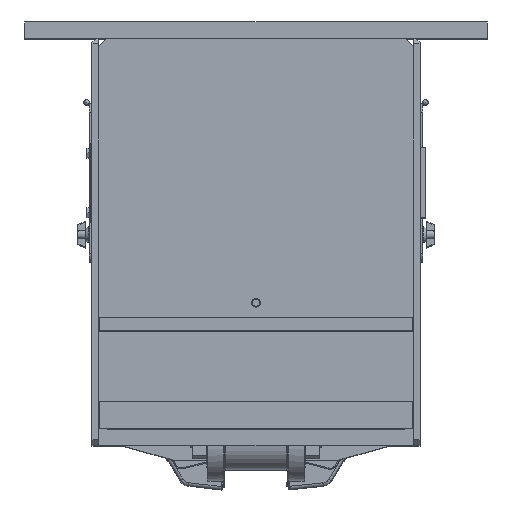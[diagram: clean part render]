
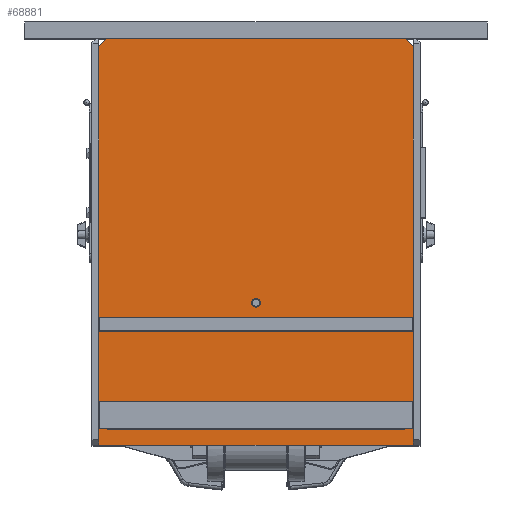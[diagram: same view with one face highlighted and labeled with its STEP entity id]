
A CAD part, top view. The second image highlights one B-rep face of the part: STEP entity #68881.
In plain terms, the highlighted planar face has unit normal (0, 0, 1).
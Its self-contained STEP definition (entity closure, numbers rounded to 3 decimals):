
#3217=FACE_BOUND('',#10303,.T.);
#3218=FACE_BOUND('',#10304,.T.);
#3219=FACE_BOUND('',#10305,.T.);
#6299=FACE_OUTER_BOUND('',#10302,.T.);
#10302=EDGE_LOOP('',(#52033,#52034,#52035,#52036,#52037,#52038));
#10303=EDGE_LOOP('',(#52039));
#10304=EDGE_LOOP('',(#52040,#52041,#52042,#52043));
#10305=EDGE_LOOP('',(#52044,#52045,#52046,#52047));
#13907=LINE('',#109629,#19379);
#13917=LINE('',#109649,#19389);
#13919=LINE('',#109655,#19391);
#13929=LINE('',#109675,#19401);
#15024=LINE('',#117021,#20496);
#15026=LINE('',#117024,#20498);
#15036=LINE('',#117043,#20508);
#15038=LINE('',#117046,#20510);
#15052=LINE('',#117076,#20524);
#15090=LINE('',#117152,#20562);
#15094=LINE('',#117159,#20566);
#15095=LINE('',#117161,#20567);
#15096=LINE('',#117163,#20568);
#15097=LINE('',#117164,#20569);
#19379=VECTOR('',#80977,547.);
#19389=VECTOR('',#80989,547.);
#19391=VECTOR('',#80993,547.);
#19401=VECTOR('',#81005,547.);
#20496=VECTOR('',#85270,50.8);
#20498=VECTOR('',#85274,50.8);
#20508=VECTOR('',#85302,25.4);
#20510=VECTOR('',#85306,25.4);
#20524=VECTOR('',#85328,548.);
#20562=VECTOR('',#85386,733.);
#20566=VECTOR('',#85392,21.213);
#20567=VECTOR('',#85393,578.);
#20568=VECTOR('',#85394,733.);
#20569=VECTOR('',#85395,21.213);
#23899=CIRCLE('',#72431,8.);
#27511=VERTEX_POINT('',#109625);
#27513=VERTEX_POINT('',#109628);
#27518=VERTEX_POINT('',#109639);
#27522=VERTEX_POINT('',#109647);
#27523=VERTEX_POINT('',#109651);
#27525=VERTEX_POINT('',#109654);
#27530=VERTEX_POINT('',#109665);
#27534=VERTEX_POINT('',#109673);
#27837=VERTEX_POINT('',#110674);
#28855=VERTEX_POINT('',#117073);
#28856=VERTEX_POINT('',#117075);
#28883=VERTEX_POINT('',#117149);
#28884=VERTEX_POINT('',#117151);
#28887=VERTEX_POINT('',#117160);
#28888=VERTEX_POINT('',#117162);
#34872=EDGE_CURVE('',#27513,#27511,#13907,.T.);
#34882=EDGE_CURVE('',#27518,#27522,#13917,.T.);
#34884=EDGE_CURVE('',#27525,#27523,#13919,.T.);
#34894=EDGE_CURVE('',#27530,#27534,#13929,.T.);
#35323=EDGE_CURVE('',#27837,#27837,#23899,.T.);
#37027=EDGE_CURVE('',#27511,#27518,#15024,.T.);
#37029=EDGE_CURVE('',#27522,#27513,#15026,.T.);
#37039=EDGE_CURVE('',#27523,#27530,#15036,.T.);
#37041=EDGE_CURVE('',#27534,#27525,#15038,.T.);
#37055=EDGE_CURVE('',#28855,#28856,#15052,.T.);
#37093=EDGE_CURVE('',#28883,#28884,#15090,.T.);
#37097=EDGE_CURVE('',#28884,#28855,#15094,.T.);
#37098=EDGE_CURVE('',#28887,#28883,#15095,.T.);
#37099=EDGE_CURVE('',#28888,#28887,#15096,.T.);
#37100=EDGE_CURVE('',#28856,#28888,#15097,.T.);
#52033=ORIENTED_EDGE('',*,*,#37097,.F.);
#52034=ORIENTED_EDGE('',*,*,#37093,.F.);
#52035=ORIENTED_EDGE('',*,*,#37098,.F.);
#52036=ORIENTED_EDGE('',*,*,#37099,.F.);
#52037=ORIENTED_EDGE('',*,*,#37100,.F.);
#52038=ORIENTED_EDGE('',*,*,#37055,.F.);
#52039=ORIENTED_EDGE('',*,*,#35323,.T.);
#52040=ORIENTED_EDGE('',*,*,#37027,.T.);
#52041=ORIENTED_EDGE('',*,*,#34882,.T.);
#52042=ORIENTED_EDGE('',*,*,#37029,.T.);
#52043=ORIENTED_EDGE('',*,*,#34872,.T.);
#52044=ORIENTED_EDGE('',*,*,#37039,.T.);
#52045=ORIENTED_EDGE('',*,*,#34894,.T.);
#52046=ORIENTED_EDGE('',*,*,#37041,.T.);
#52047=ORIENTED_EDGE('',*,*,#34884,.T.);
#62402=PLANE('',#73743);
#68881=ADVANCED_FACE('',(#6299,#3217,#3218,#3219),#62402,.T.);
#72431=AXIS2_PLACEMENT_3D('',#110675,#81856,#81857);
#73743=AXIS2_PLACEMENT_3D('',#117158,#85390,#85391);
#80977=DIRECTION('',(-1.,0.,0.));
#80989=DIRECTION('',(1.,0.,0.));
#80993=DIRECTION('',(-1.,0.,0.));
#81005=DIRECTION('',(1.,0.,0.));
#81856=DIRECTION('center_axis',(0.,0.,
-1.));
#81857=DIRECTION('ref_axis',(1.,0.,0.));
#85270=DIRECTION('',(0.,1.,0.));
#85274=DIRECTION('',(0.,-1.,0.));
#85302=DIRECTION('',(0.,1.,0.));
#85306=DIRECTION('',(0.,-1.,0.));
#85328=DIRECTION('',(1.,0.,0.));
#85386=DIRECTION('',(0.,1.,0.));
#85390=DIRECTION('center_axis',(0.,0.,
1.));
#85391=DIRECTION('ref_axis',(1.,0.,0.));
#85392=DIRECTION('',(0.707,0.707,0.));
#85393=DIRECTION('',(-1.,0.,0.));
#85394=DIRECTION('',(0.,-1.,0.));
#85395=DIRECTION('',(0.707,-0.707,0.));
#109625=CARTESIAN_POINT('',(-273.5,30.,841.275));
#109628=CARTESIAN_POINT('',(273.5,30.,841.275));
#109629=CARTESIAN_POINT('',(0.,30.,841.275));
#109639=CARTESIAN_POINT('',(-273.5,80.8,841.275));
#109647=CARTESIAN_POINT('',(273.5,80.8,841.275));
#109649=CARTESIAN_POINT('',(0.,80.8,841.275));
#109651=CARTESIAN_POINT('',(-273.5,210.,841.275));
#109654=CARTESIAN_POINT('',(273.5,210.,841.275));
#109655=CARTESIAN_POINT('',(0.,210.,841.275));
#109665=CARTESIAN_POINT('',(-273.5,235.4,841.275));
#109673=CARTESIAN_POINT('',(273.5,235.4,841.275));
#109675=CARTESIAN_POINT('',(0.,235.4,841.275));
#110674=CARTESIAN_POINT('',(-8.,262.,841.275));
#110675=CARTESIAN_POINT('Origin',(0.,262.,
841.275));
#117021=CARTESIAN_POINT('',(-273.5,214.7,841.275));
#117024=CARTESIAN_POINT('',(273.5,214.7,841.275));
#117043=CARTESIAN_POINT('',(-273.5,298.35,841.275));
#117046=CARTESIAN_POINT('',(273.5,298.35,841.275));
#117073=CARTESIAN_POINT('',(-274.,748.,841.275));
#117075=CARTESIAN_POINT('',(274.,748.,841.275));
#117076=CARTESIAN_POINT('',(-289.,748.,841.275));
#117149=CARTESIAN_POINT('',(-289.,0.,841.275));
#117151=CARTESIAN_POINT('',(-289.,733.,841.275));
#117152=CARTESIAN_POINT('',(-289.,374.,841.275));
#117158=CARTESIAN_POINT('Origin',(0.,374.,
841.275));
#117159=CARTESIAN_POINT('',(-302.75,719.25,841.275));
#117160=CARTESIAN_POINT('',(289.,0.,841.275));
#117161=CARTESIAN_POINT('',(289.,0.,841.275));
#117162=CARTESIAN_POINT('',(289.,733.,841.275));
#117163=CARTESIAN_POINT('',(289.,374.,841.275));
#117164=CARTESIAN_POINT('',(302.75,719.25,841.275));
